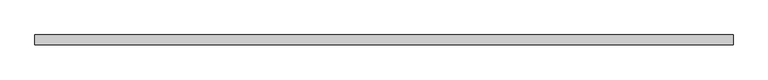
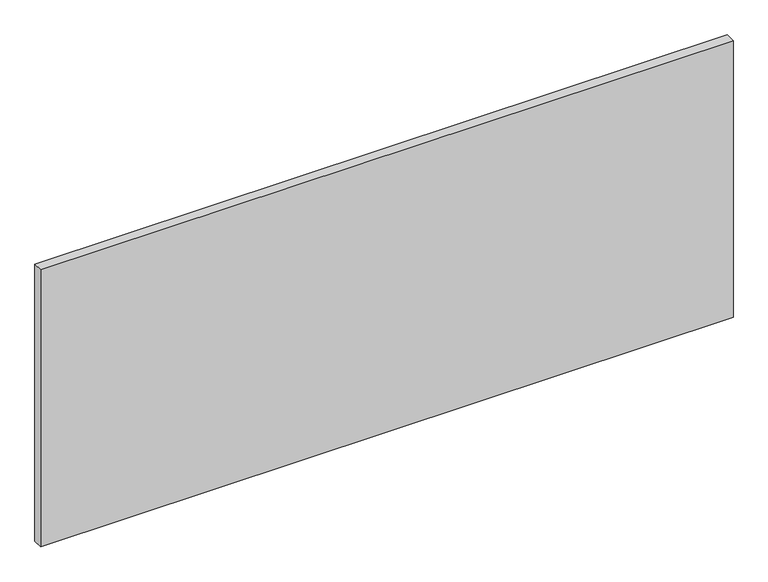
"""IFC4 building model written with IfcOpenShell, lengths in millimetres: plate geometry, 系统嵌板 : 玻璃."""

from ifc_helpers import new_model, si_unit, origin, origin_with_axes, place, context, project, spatial, polyline, outline, extrude, source, transform, mapped, element, save


def plate_985eec47(model_context):
    return source(origin(), model_context, "Body", "SweptSolid", [
        extrude(outline(polyline([(887.5, -12.5), (-887.5, -12.5), (-887.5, 12.5), (887.5, 12.5), (887.5, -12.5)])), origin_with_axes(), (0.0, 0.0, 1.0), 750.0),
    ])


if __name__ == "__main__":
    model = new_model("IFC4")
    model_context = context("Model", 3, world=origin())
    ifc_project = project(units=[si_unit("LENGTHUNIT", "METRE", prefix="MILLI")], contexts=[model_context])
    site = spatial("IfcSite", under=ifc_project)
    building = spatial("IfcBuilding", under=site)
    placement = place(None, origin())
    plate_shape = plate_985eec47(model_context)
    element("IfcPlate", 1, ObjectType="系统嵌板 : 玻璃", at=placement, inside=building, context=model_context, shape_type="MappedRepresentation", body=[
        mapped(plate_shape, transform((0.0, 0.0, 0.0), x_axis=(1.0, 0.0, 0.0), y_axis=(0.0, 1.0, 0.0), z_axis=(0.0, 0.0, 1.0))),
    ])
    save(model, "model.ifc")
